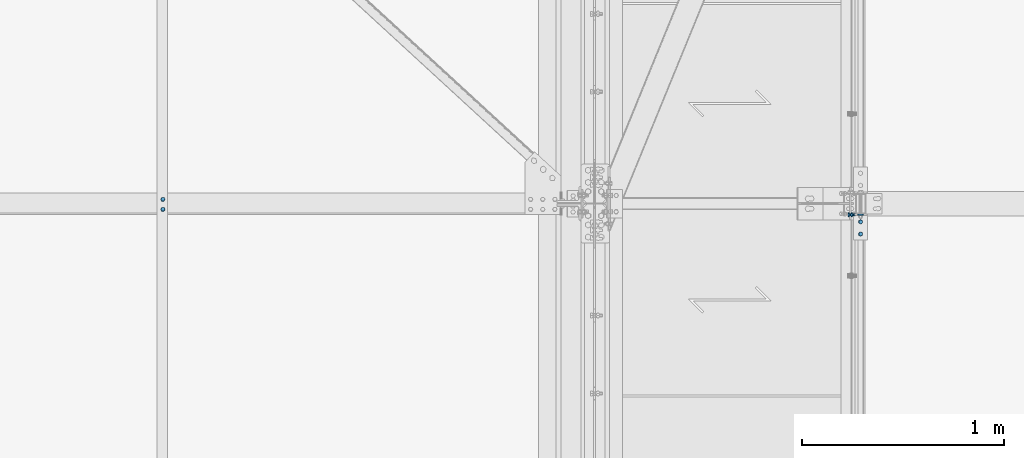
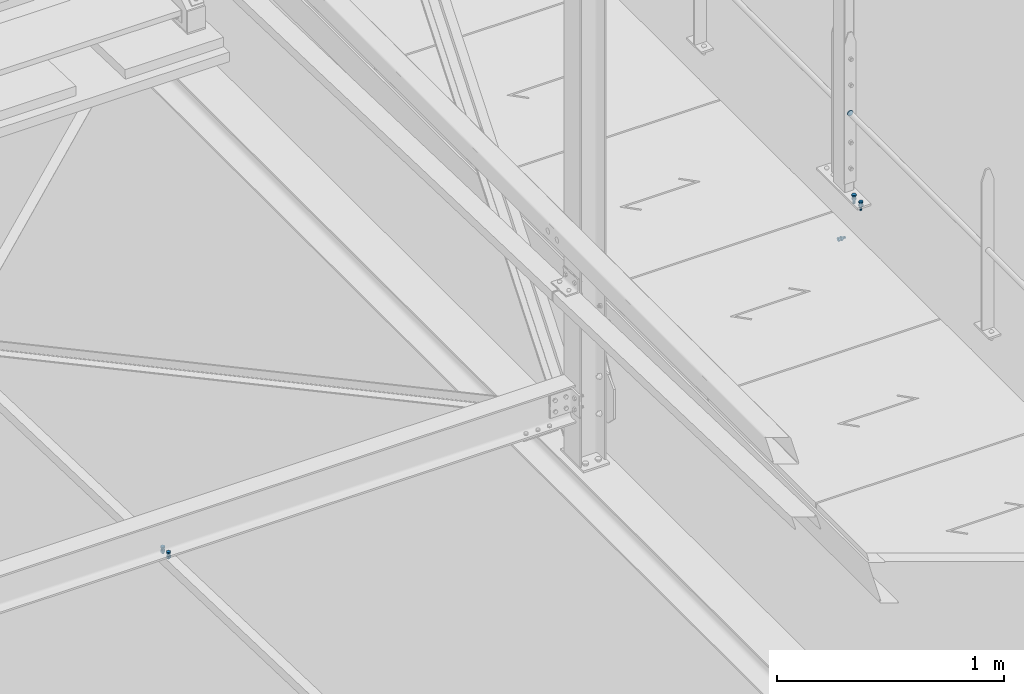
# One storey, part 249 of 362: 4 mechanical fasteners.
"""IFC2X3 building model written with IfcOpenShell, lengths in millimetres."""

from ifc_helpers import new_model, si_unit, frame, origin_with_axes, origin_2d_with_axis, place, context, subcontext, project, spatial, polyline, circle, outline, extrude, source, transform, mapped, material, type_object, element, save


model = new_model("IFC2X3")

# Units and contexts
model_context = context("Model", 3, precision=1e-05, world=origin_with_axes())
body_context = subcontext(model_context, "Body", "Model", "MODEL_VIEW")
ifc_project = project(units=[si_unit("LENGTHUNIT", "METRE", prefix="MILLI"), si_unit("AREAUNIT", "SQUARE_METRE"), si_unit("VOLUMEUNIT", "CUBIC_METRE"), si_unit("MASSUNIT", "GRAM", prefix="KILO"), si_unit("TIMEUNIT", "SECOND"), si_unit("PLANEANGLEUNIT", "RADIAN"), si_unit("SOLIDANGLEUNIT", "STERADIAN"), si_unit("THERMODYNAMICTEMPERATUREUNIT", "DEGREE_CELSIUS"), si_unit("LUMINOUSINTENSITYUNIT", "LUMEN")], contexts=[model_context])

# Site, building, storey
site_placement = place(None, origin_with_axes())
site = spatial("IfcSite", under=ifc_project, at=site_placement, Name="Undefined", CompositionType="ELEMENT")
building_placement = place(site_placement, origin_with_axes())
building = spatial("IfcBuilding", under=site, at=building_placement, Name="Undefined", CompositionType="ELEMENT")
storey_placement = place(building_placement, origin_with_axes())
storey = spatial("IfcBuildingStorey", under=building, at=storey_placement, Name="Undefined", CompositionType="ELEMENT", Elevation=0.0)

# Mechanical fasteners
ifc_material_1 = material(Name="8.8-SB-ZINGUE")
mechanical_fastener_type = type_object("IfcMechanicalFastenerType", Name="Bolt assembly")
shared_shape_1 = source(origin_with_axes(), body_context, "Body", "SweptSolid", [
    extrude(circle(Radius=7.0, at=origin_2d_with_axis()), frame((0.0, -8.3982731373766, 0.0), z_axis=(0.0, 1.0, 0.0), x_axis=(1.0, 0.0, 0.0)), (0.0, 0.0, 1.0), 8.5),
    extrude(circle(Radius=7.0, at=origin_2d_with_axis()), frame((0.0, -0.100011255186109, 0.0), z_axis=(0.0, 1.0, 0.0), x_axis=(1.0, 0.0, 0.0)), (0.0, 0.0, 1.0), 5.1),
    extrude(outline(polyline([(10.39230484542, 0.0), (5.19615242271, 9.00000000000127), (-5.19615242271, 9.00000000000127), (-10.39230484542, 0.0), (-5.19615242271, -9.00000000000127), (5.19615242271, -9.00000000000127), (10.39230484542, 0.0)])), frame((0.0, -16.4182731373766, 0.0), z_axis=(0.0, 1.0, 0.0), x_axis=(1.0, 0.0, 0.0)), (0.0, 0.0, 1.0), 7.92),
    extrude(circle(Radius=6.0, at=origin_2d_with_axis()), frame((0.0, -8.4982731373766, 0.0), z_axis=(0.0, 1.0, 0.0), x_axis=(1.0, 0.0, 0.0)), (0.0, 0.0, 1.0), 30.0),
    extrude(outline(polyline([(11.5008173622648, 0.0), (5.7504086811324, 9.96000000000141), (-5.7504086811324, 9.96000000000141), (-11.5008173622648, 0.0), (-5.7504086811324, -9.96000000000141), (5.7504086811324, -9.96000000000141), (11.5008173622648, 0.0)])), frame((0.0, 5.0, 0.0), z_axis=(0.0, 1.0, 0.0), x_axis=(1.0, 0.0, 0.0)), (0.0, 0.0, 1.0), 7.92),
])
mechanical_fastener_1_placement = place(storey_placement, frame((10546.7500126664, 11396.8595005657, 7491.74218889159), z_axis=(0.0, -0.999506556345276, 0.031410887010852), x_axis=(-1.0, 0.0, 0.0)))
element("IfcMechanicalFastener", 1, at=mechanical_fastener_1_placement, inside=storey, type_object=mechanical_fastener_type, material=ifc_material_1, Name="Bolt assembly", NominalDiameter=12.0, NominalLength=30.0, context=body_context, shape_type="MappedRepresentation", body=[
    mapped(shared_shape_1, transform((0.0, 0.0, -25.0))),
    mapped(shared_shape_1, transform((0.0, 0.0, 25.0))),
])
shared_shape_2 = source(origin_with_axes(), body_context, "Body", "SweptSolid", [
    extrude(circle(Radius=7.0, at=origin_2d_with_axis()), frame((0.0, -10.0000010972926, 0.0), z_axis=(0.0, 1.0, 0.0), x_axis=(1.0, 0.0, 0.0)), (0.0, 0.0, 1.0), 10.1),
    extrude(outline(polyline([(10.39230484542, 0.0), (5.19615242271, 9.00000000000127), (-5.19615242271, 9.00000000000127), (-10.39230484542, 0.0), (-5.19615242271, -9.00000000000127), (5.19615242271, -9.00000000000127), (10.39230484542, 0.0)])), frame((0.0, -17.92, 0.0), z_axis=(0.0, 1.0, 0.0), x_axis=(1.0, 0.0, 0.0)), (0.0, 0.0, 1.0), 7.92),
    extrude(circle(Radius=6.0, at=origin_2d_with_axis()), frame((0.0, -10.0000010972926, 0.0), z_axis=(0.0, 1.0, 0.0), x_axis=(1.0, 0.0, 0.0)), (0.0, 0.0, 1.0), 40.0),
    extrude(outline(polyline([(11.5008173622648, 0.0), (5.7504086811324, 9.96000000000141), (-5.7504086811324, 9.96000000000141), (-11.5008173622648, 0.0), (-5.7504086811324, -9.96000000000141), (5.7504086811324, -9.96000000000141), (11.5008173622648, 0.0)])), frame((0.0, 0.0, 0.0), z_axis=(0.0, 1.0, 0.0), x_axis=(1.0, 0.0, 0.0)), (0.0, 0.0, 1.0), 7.92),
])
mechanical_fastener_2_placement = place(storey_placement, frame((13993.9998855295, 11250.000106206, 8240.00002612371), z_axis=(-1.0, 0.0, 0.0), x_axis=(0.0, 1.0, 0.0)))
element("IfcMechanicalFastener", 2, at=mechanical_fastener_2_placement, inside=storey, type_object=mechanical_fastener_type, material=ifc_material_1, Name="Bolt assembly", NominalDiameter=12.0, NominalLength=40.0, context=body_context, shape_type="MappedRepresentation", body=[
    mapped(shared_shape_2, transform((0.0, 0.0, 0.0))),
    mapped(shared_shape_2, transform((60.0, 0.0, 0.0))),
])
ifc_material_2 = material(Name="6.8")
shared_shape_3 = source(origin_with_axes(), body_context, "Body", "SweptSolid", [
    extrude(circle(Radius=14.0, at=origin_2d_with_axis()), frame((0.0, -2.5, 0.0), z_axis=(0.0, 1.0, 0.0), x_axis=(1.0, 0.0, 0.0)), (0.0, 0.0, 1.0), 5.1),
])
mechanical_fastener_3_placement = place(storey_placement, frame((13993.9998909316, 11345.0000094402, 8673.79999937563), z_axis=(0.0, 0.0, 1.0), x_axis=(-1.0, 0.0, 0.0)))
element("IfcMechanicalFastener", 3, at=mechanical_fastener_3_placement, inside=storey, type_object=mechanical_fastener_type, material=ifc_material_2, Name="Bolt assembly", NominalDiameter=27.0, NominalLength=10.0, context=body_context, shape_type="MappedRepresentation", body=[
    mapped(shared_shape_3, transform((0.0, 0.0, 0.0))),
])
shared_shape_4 = source(origin_with_axes(), body_context, "Body", "SweptSolid", [
    extrude(circle(Radius=7.0, at=origin_2d_with_axis()), frame((0.0, -6.5, 0.0), z_axis=(0.0, 1.0, 0.0), x_axis=(1.0, 0.0, 0.0)), (0.0, 0.0, 1.0), 6.1),
    extrude(outline(polyline([(10.39230484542, 0.0), (5.19615242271, 9.00000000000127), (-5.19615242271, 9.00000000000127), (-10.39230484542, 0.0), (-5.19615242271, -9.00000000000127), (5.19615242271, -9.00000000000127), (10.39230484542, 0.0)])), frame((0.0, -14.42, 0.0), z_axis=(0.0, 1.0, 0.0), x_axis=(1.0, 0.0, 0.0)), (0.0, 0.0, 1.0), 7.92),
    extrude(circle(Radius=6.0, at=origin_2d_with_axis()), frame((0.0, -6.5, 0.0), z_axis=(0.0, 1.0, 0.0), x_axis=(1.0, 0.0, 0.0)), (0.0, 0.0, 1.0), 30.0),
    extrude(outline(polyline([(11.5008173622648, 0.0), (5.7504086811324, 9.96000000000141), (-5.7504086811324, 9.96000000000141), (-11.5008173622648, 0.0), (-5.7504086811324, -9.96000000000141), (5.7504086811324, -9.96000000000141), (11.5008173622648, 0.0)])), frame((0.0, -0.5, 0.0), z_axis=(0.0, 1.0, 0.0), x_axis=(1.0, 0.0, 0.0)), (0.0, 0.0, 1.0), 7.92),
])
mechanical_fastener_4_placement = place(storey_placement, frame((13946.4998855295, 11344.9999999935, 8015.00000000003), z_axis=(0.0, 0.0, -1.0), x_axis=(0.0, 1.0, 0.0)))
element("IfcMechanicalFastener", 4, at=mechanical_fastener_4_placement, inside=storey, type_object=mechanical_fastener_type, material=ifc_material_1, Name="Bolt assembly", NominalDiameter=12.0, NominalLength=30.0, context=body_context, shape_type="MappedRepresentation", body=[
    mapped(shared_shape_4, transform((0.0, 0.0, 0.0))),
])

save(model, "model.ifc")
